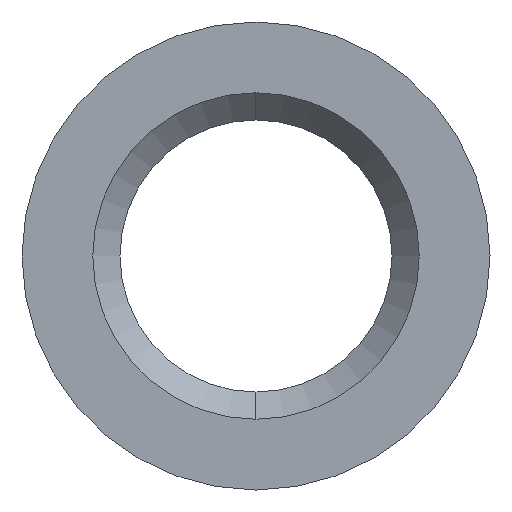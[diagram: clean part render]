
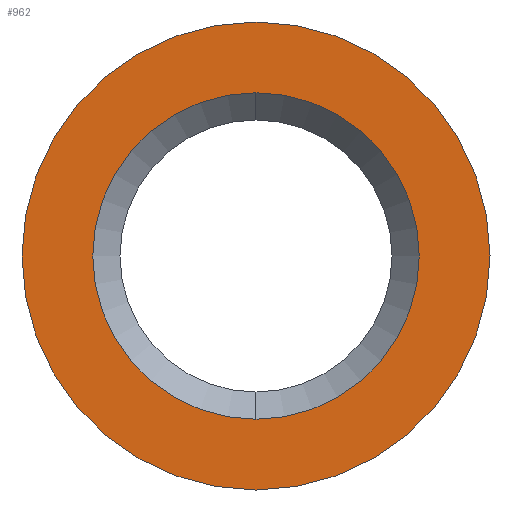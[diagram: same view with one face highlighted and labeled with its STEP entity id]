
A CAD part, left-side view. The second image highlights one B-rep face of the part: STEP entity #962.
In plain terms, the highlighted planar face has unit normal (-1, 0, 0).
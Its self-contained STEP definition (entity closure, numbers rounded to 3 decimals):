
#21 = ORIENTED_EDGE ( 'NONE', *, *, #955, .T. ) ;
#33 = AXIS2_PLACEMENT_3D ( 'NONE', #624, #296, #726 ) ;
#48 = AXIS2_PLACEMENT_3D ( 'NONE', #1124, #143, #362 ) ;
#94 = EDGE_CURVE ( 'NONE', #1083, #553, #246, .T. ) ;
#129 = DIRECTION ( 'NONE',  ( -1., 0., 0. ) ) ;
#143 = DIRECTION ( 'NONE',  ( -1., 0., 0. ) ) ;
#144 = CARTESIAN_POINT ( 'NONE',  ( -12.7, 0., -3. ) ) ;
#160 = CIRCLE ( 'NONE', #1190, 3. ) ;
#182 = AXIS2_PLACEMENT_3D ( 'NONE', #1389, #129, #551 ) ;
#205 = ORIENTED_EDGE ( 'NONE', *, *, #361, .T. ) ;
#210 = AXIS2_PLACEMENT_3D ( 'NONE', #670, #235, #1094 ) ;
#231 = CARTESIAN_POINT ( 'NONE',  ( -12.7, 0., 0. ) ) ;
#235 = DIRECTION ( 'NONE',  ( 1., 0., 0. ) ) ;
#242 = FACE_OUTER_BOUND ( 'NONE', #515, .T. ) ;
#246 = CIRCLE ( 'NONE', #182, 4.3 ) ;
#296 = DIRECTION ( 'NONE',  ( 1., 0., 0. ) ) ;
#361 = EDGE_CURVE ( 'NONE', #553, #1083, #522, .T. ) ;
#362 = DIRECTION ( 'NONE',  ( 0., 0., -1. ) ) ;
#430 = CARTESIAN_POINT ( 'NONE',  ( -12.7, 0., -4.3 ) ) ;
#452 = CIRCLE ( 'NONE', #33, 3. ) ;
#460 = FACE_BOUND ( 'NONE', #883, .T. ) ;
#515 = EDGE_LOOP ( 'NONE', ( #205, #1152 ) ) ;
#522 = CIRCLE ( 'NONE', #48, 4.3 ) ;
#551 = DIRECTION ( 'NONE',  ( 0., 0., -1. ) ) ;
#553 = VERTEX_POINT ( 'NONE', #430 ) ;
#624 = CARTESIAN_POINT ( 'NONE',  ( -12.7, 0., 0. ) ) ;
#637 = VERTEX_POINT ( 'NONE', #1179 ) ;
#665 = EDGE_CURVE ( 'NONE', #637, #1031, #160, .T. ) ;
#670 = CARTESIAN_POINT ( 'NONE',  ( -12.7, 4.3, 0. ) ) ;
#726 = DIRECTION ( 'NONE',  ( 0., 0., -1. ) ) ;
#771 = CARTESIAN_POINT ( 'NONE',  ( -12.7, 0., 4.3 ) ) ;
#782 = PLANE ( 'NONE',  #210 ) ;
#883 = EDGE_LOOP ( 'NONE', ( #1052, #21 ) ) ;
#955 = EDGE_CURVE ( 'NONE', #1031, #637, #452, .T. ) ;
#962 = ADVANCED_FACE ( 'NONE', ( #460, #242 ), #782, .F. ) ;
#1031 = VERTEX_POINT ( 'NONE', #144 ) ;
#1052 = ORIENTED_EDGE ( 'NONE', *, *, #665, .T. ) ;
#1083 = VERTEX_POINT ( 'NONE', #771 ) ;
#1091 = DIRECTION ( 'NONE',  ( 1., 0., 0. ) ) ;
#1094 = DIRECTION ( 'NONE',  ( 0., 0., -1. ) ) ;
#1096 = DIRECTION ( 'NONE',  ( 0., 0., -1. ) ) ;
#1124 = CARTESIAN_POINT ( 'NONE',  ( -12.7, 0., 0. ) ) ;
#1152 = ORIENTED_EDGE ( 'NONE', *, *, #94, .T. ) ;
#1179 = CARTESIAN_POINT ( 'NONE',  ( -12.7, 0., 3. ) ) ;
#1190 = AXIS2_PLACEMENT_3D ( 'NONE', #231, #1091, #1096 ) ;
#1389 = CARTESIAN_POINT ( 'NONE',  ( -12.7, 0., 0. ) ) ;
